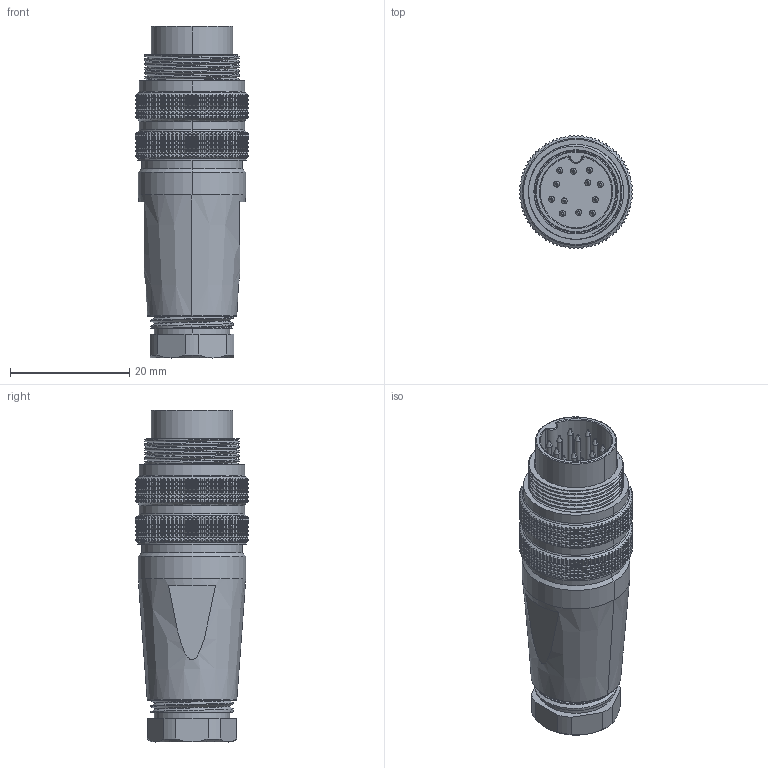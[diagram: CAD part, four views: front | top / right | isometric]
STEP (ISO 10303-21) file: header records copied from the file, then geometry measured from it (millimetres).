
FILE_DESCRIPTION (( 'STEP AP203' ), '1' );
FILE_NAME ('878-012-103RKT1.STEP', '2024-11-20T19:40:13', ( '' ), ( '' ), 'SwSTEP 2.0', 'SolidWorks 2020', '' );
FILE_SCHEMA (( 'CONFIG_CONTROL_DESIGN' ));
Length unit declared in the file: millimetre
Products named in the file (1): 878-012-103RKT1
Bounding box: 18.99 x 18.99 x 55.6 mm (x, y, z)
Volume: 5130.7 mm3; surface area: 10764.2 mm2
Topology: 2 solids, 2 shells, 5744 faces, 16976 edges, 11252 vertices
Faces by surface type: cylinder 2096, plane 1985, cone 1595, bspline 68
Entity records: 214999 total; most frequent: CARTESIAN_POINT 72995, ORIENTED_EDGE 33904, DIRECTION 24631, EDGE_CURVE 16952, VERTEX_POINT 11252, AXIS2_PLACEMENT_3D 9494, B_SPLINE_CURVE_WITH_KNOTS 7479, EDGE_LOOP 5820
